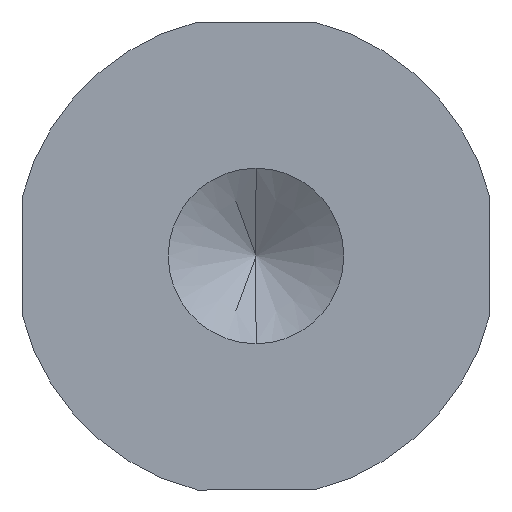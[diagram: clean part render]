
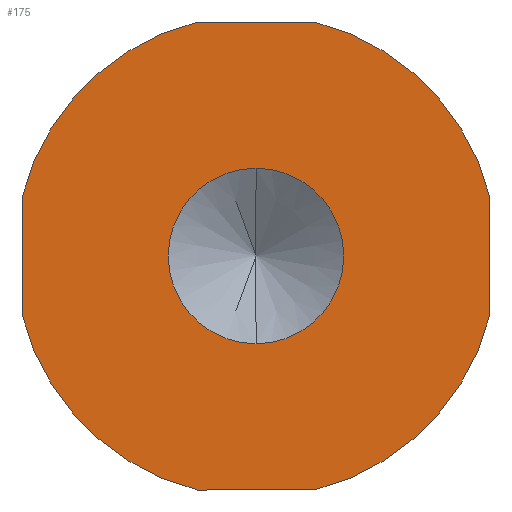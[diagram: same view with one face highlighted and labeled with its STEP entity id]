
A CAD part, front view. The second image highlights one B-rep face of the part: STEP entity #175.
In plain terms, the highlighted planar face has unit normal (0, -1, 0).
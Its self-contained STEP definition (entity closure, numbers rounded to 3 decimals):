
#13 = ORIENTED_EDGE ( 'NONE', *, *, #595, .T. ) ;
#15 = CARTESIAN_POINT ( 'NONE',  ( -16., 0., 4.031 ) ) ;
#16 = ORIENTED_EDGE ( 'NONE', *, *, #294, .F. ) ;
#25 = VERTEX_POINT ( 'NONE', #518 ) ;
#41 = CARTESIAN_POINT ( 'NONE',  ( 0., 0., 0. ) ) ;
#46 = EDGE_CURVE ( 'NONE', #609, #440, #117, .T. ) ;
#60 = ORIENTED_EDGE ( 'NONE', *, *, #550, .F. ) ;
#67 = VERTEX_POINT ( 'NONE', #234 ) ;
#88 = DIRECTION ( 'NONE',  ( 0., 0., -1. ) ) ;
#89 = DIRECTION ( 'NONE',  ( 0., 1., 0. ) ) ;
#100 = CARTESIAN_POINT ( 'NONE',  ( -4.031, 0., -16. ) ) ;
#107 = VERTEX_POINT ( 'NONE', #280 ) ;
#112 = CARTESIAN_POINT ( 'NONE',  ( 0., 0., 0. ) ) ;
#117 = CIRCLE ( 'NONE', #616, 16.5 ) ;
#129 = CARTESIAN_POINT ( 'NONE',  ( 16., 0., 4.031 ) ) ;
#131 = VECTOR ( 'NONE', #321, 1000. ) ;
#132 = EDGE_CURVE ( 'NONE', #67, #596, #389, .T. ) ;
#133 = EDGE_CURVE ( 'NONE', #107, #253, #374, .T. ) ;
#136 = CARTESIAN_POINT ( 'NONE',  ( 0., 0., 0. ) ) ;
#143 = DIRECTION ( 'NONE',  ( 0., 0., -1. ) ) ;
#159 = DIRECTION ( 'NONE',  ( 0., -1., 0. ) ) ;
#163 = ORIENTED_EDGE ( 'NONE', *, *, #132, .F. ) ;
#165 = CIRCLE ( 'NONE', #307, 16.5 ) ;
#175 = ADVANCED_FACE ( 'NONE', ( #572, #281 ), #226, .F. ) ;
#193 = CARTESIAN_POINT ( 'NONE',  ( 0., 0., 0. ) ) ;
#199 = ORIENTED_EDGE ( 'NONE', *, *, #270, .F. ) ;
#201 = CARTESIAN_POINT ( 'NONE',  ( 16., 0., 4.031 ) ) ;
#208 = DIRECTION ( 'NONE',  ( 0., 0., -1. ) ) ;
#211 = EDGE_LOOP ( 'NONE', ( #302, #60, #13, #16, #271, #199, #446, #163 ) ) ;
#213 = CIRCLE ( 'NONE', #292, 16.5 ) ;
#226 = PLANE ( 'NONE',  #552 ) ;
#234 = CARTESIAN_POINT ( 'NONE',  ( -16., 0., -4.031 ) ) ;
#235 = DIRECTION ( 'NONE',  ( 0., 0., -1. ) ) ;
#238 = CARTESIAN_POINT ( 'NONE',  ( 0., 0., 0. ) ) ;
#243 = AXIS2_PLACEMENT_3D ( 'NONE', #112, #159, #208 ) ;
#247 = CARTESIAN_POINT ( 'NONE',  ( 4.031, 0., -16. ) ) ;
#253 = VERTEX_POINT ( 'NONE', #275 ) ;
#257 = ORIENTED_EDGE ( 'NONE', *, *, #133, .F. ) ;
#259 = LINE ( 'NONE', #247, #387 ) ;
#264 = AXIS2_PLACEMENT_3D ( 'NONE', #193, #288, #285 ) ;
#267 = VERTEX_POINT ( 'NONE', #460 ) ;
#270 = EDGE_CURVE ( 'NONE', #267, #440, #561, .T. ) ;
#271 = ORIENTED_EDGE ( 'NONE', *, *, #46, .T. ) ;
#275 = CARTESIAN_POINT ( 'NONE',  ( 0., 0., 6. ) ) ;
#277 = DIRECTION ( 'NONE',  ( 0., -1., 0. ) ) ;
#280 = CARTESIAN_POINT ( 'NONE',  ( 0., 0., -6. ) ) ;
#281 = FACE_OUTER_BOUND ( 'NONE', #211, .T. ) ;
#285 = DIRECTION ( 'NONE',  ( 0., 0., -1. ) ) ;
#288 = DIRECTION ( 'NONE',  ( 0., -1., 0. ) ) ;
#292 = AXIS2_PLACEMENT_3D ( 'NONE', #487, #390, #584 ) ;
#293 = CIRCLE ( 'NONE', #243, 16.5 ) ;
#294 = EDGE_CURVE ( 'NONE', #609, #347, #324, .T. ) ;
#302 = ORIENTED_EDGE ( 'NONE', *, *, #340, .T. ) ;
#304 = EDGE_CURVE ( 'NONE', #267, #596, #165, .T. ) ;
#307 = AXIS2_PLACEMENT_3D ( 'NONE', #238, #348, #143 ) ;
#321 = DIRECTION ( 'NONE',  ( 0., 0., -1. ) ) ;
#324 = LINE ( 'NONE', #129, #131 ) ;
#337 = CARTESIAN_POINT ( 'NONE',  ( 4.031, 0., 16. ) ) ;
#340 = EDGE_CURVE ( 'NONE', #67, #605, #213, .T. ) ;
#347 = VERTEX_POINT ( 'NONE', #534 ) ;
#348 = DIRECTION ( 'NONE',  ( 0., -1., 0. ) ) ;
#359 = EDGE_CURVE ( 'NONE', #253, #107, #538, .T. ) ;
#366 = ORIENTED_EDGE ( 'NONE', *, *, #359, .F. ) ;
#374 = CIRCLE ( 'NONE', #524, 6. ) ;
#381 = CARTESIAN_POINT ( 'NONE',  ( 0., 0., 0. ) ) ;
#387 = VECTOR ( 'NONE', #397, 1000. ) ;
#389 = LINE ( 'NONE', #582, #473 ) ;
#390 = DIRECTION ( 'NONE',  ( 0., -1., 0. ) ) ;
#397 = DIRECTION ( 'NONE',  ( -1., 0., 0. ) ) ;
#410 = VECTOR ( 'NONE', #564, 1000. ) ;
#440 = VERTEX_POINT ( 'NONE', #337 ) ;
#446 = ORIENTED_EDGE ( 'NONE', *, *, #304, .T. ) ;
#460 = CARTESIAN_POINT ( 'NONE',  ( -4.031, 0., 16. ) ) ;
#467 = DIRECTION ( 'NONE',  ( 0., 0., 1. ) ) ;
#473 = VECTOR ( 'NONE', #614, 1000. ) ;
#487 = CARTESIAN_POINT ( 'NONE',  ( 0., 0., 0. ) ) ;
#518 = CARTESIAN_POINT ( 'NONE',  ( 4.031, 0., -16. ) ) ;
#519 = DIRECTION ( 'NONE',  ( 0., -1., 0. ) ) ;
#524 = AXIS2_PLACEMENT_3D ( 'NONE', #136, #519, #235 ) ;
#534 = CARTESIAN_POINT ( 'NONE',  ( 16., 0., -4.031 ) ) ;
#538 = CIRCLE ( 'NONE', #264, 6. ) ;
#550 = EDGE_CURVE ( 'NONE', #25, #605, #259, .T. ) ;
#552 = AXIS2_PLACEMENT_3D ( 'NONE', #41, #89, #467 ) ;
#559 = EDGE_LOOP ( 'NONE', ( #257, #366 ) ) ;
#561 = LINE ( 'NONE', #611, #410 ) ;
#564 = DIRECTION ( 'NONE',  ( 1., 0., 0. ) ) ;
#572 = FACE_BOUND ( 'NONE', #559, .T. ) ;
#582 = CARTESIAN_POINT ( 'NONE',  ( -16., 0., -4.031 ) ) ;
#584 = DIRECTION ( 'NONE',  ( 0., 0., -1. ) ) ;
#595 = EDGE_CURVE ( 'NONE', #25, #347, #293, .T. ) ;
#596 = VERTEX_POINT ( 'NONE', #15 ) ;
#605 = VERTEX_POINT ( 'NONE', #100 ) ;
#609 = VERTEX_POINT ( 'NONE', #201 ) ;
#611 = CARTESIAN_POINT ( 'NONE',  ( -4.031, 0., 16. ) ) ;
#614 = DIRECTION ( 'NONE',  ( 0., 0., 1. ) ) ;
#616 = AXIS2_PLACEMENT_3D ( 'NONE', #381, #277, #88 ) ;
